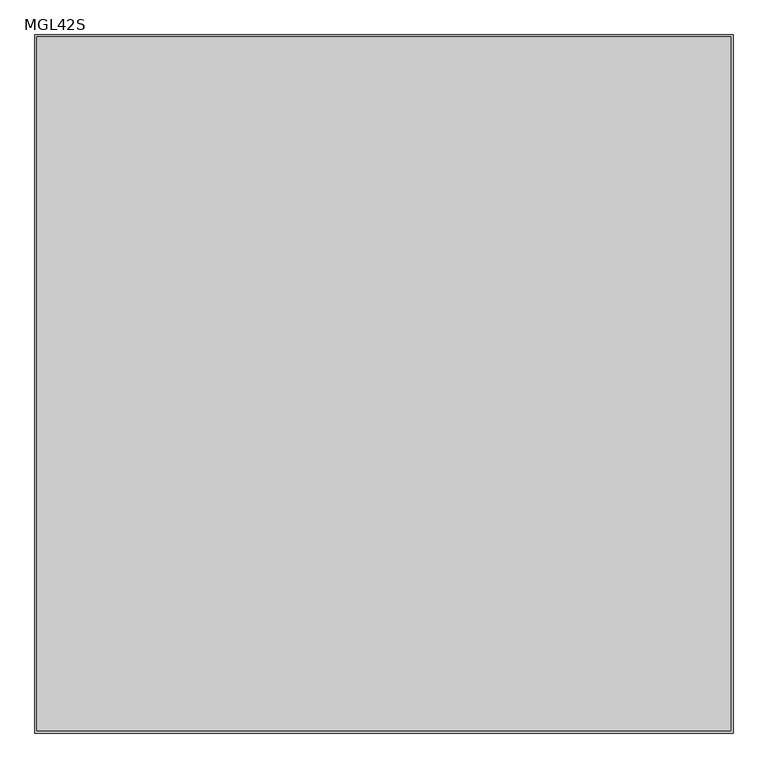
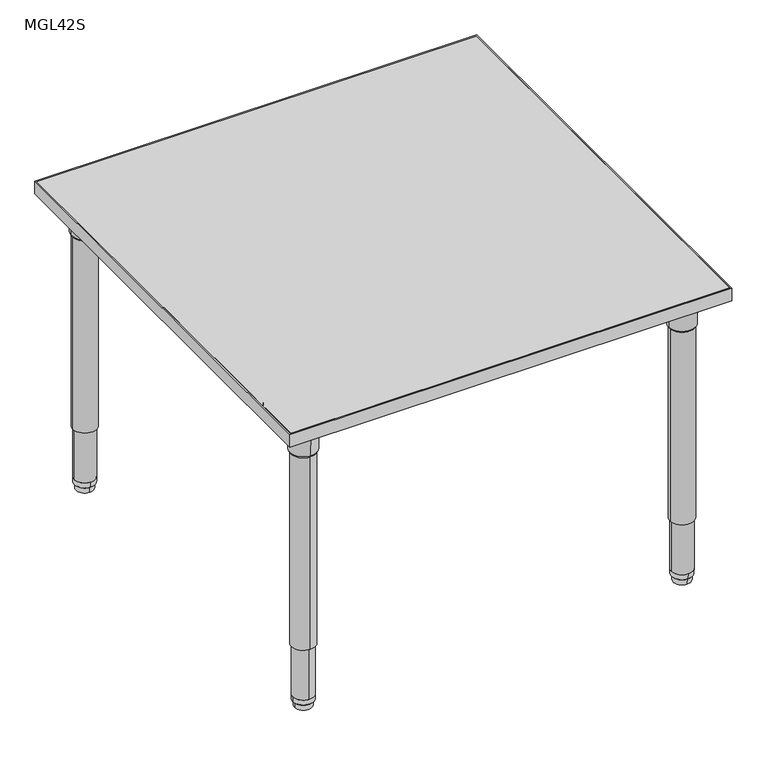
"""IFC4 building model written with IfcOpenShell, lengths in millimetres: furniture geometry, ERG-Mingle-Table-Square : MGL42S."""

from ifc_helpers import new_model, si_unit, point, frame, frame_2d, origin, place, context, project, spatial, polyline, circle_curve, trimmed, segment, composite_curve, outline, extrude, source, transform, mapped, element, save
from ifc_brep_helpers import plane_surface, cylinder_surface, revolved_surface, advanced_brep


def mgl42s_2c5b5d76(model_context):
    return source(origin(), model_context, "Body", "SolidModel", [
        advanced_brep(
        [(427.1646842, -457.2, 650.5933069), (487.2353158, -457.2, 650.5933069), (457.2, -457.2, 650.5933069), (425.056117, -457.2, 654.3580481), (489.343883, -457.2, 654.3580481), (424.1206351, -457.2, 707.7631458), (490.2793649, -457.2, 707.7631458), (420.671083, -457.2, 714.1198315), (493.728917, -457.2, 714.1198315), (420.671083, -457.2, 726.8198315), (493.728917, -457.2, 726.8198315), (457.2, -457.2, 726.8198315)],
        [
            (0, 1, circle_curve(frame((457.2, -457.2, 650.5933069), z_axis=(0.0, 0.0, -1.0), x_axis=(1.0, 0.0, 0.0)), 30.0353158)),
            (1, 2),
            (2, 0),
            (1, 0, circle_curve(frame((457.2, -457.2, 650.5933069), z_axis=(0.0, 0.0, -1.0), x_axis=(1.0, 0.0, 0.0)), 30.0353158)),
            (3, 4, circle_curve(frame((457.2, -457.2, 654.3580481), z_axis=(0.0, 0.0, -1.0), x_axis=(1.0, 0.0, 0.0)), 32.143883)),
            (4, 1),
            (0, 3),
            (4, 3, circle_curve(frame((457.2, -457.2, 654.3580481), z_axis=(0.0, 0.0, -1.0), x_axis=(1.0, 0.0, 0.0)), 32.143883)),
            (5, 6, circle_curve(frame((457.2, -457.2, 707.7631458), z_axis=(0.0, 0.0, -1.0), x_axis=(1.0, 0.0, 0.0)), 33.0793649)),
            (6, 4),
            (3, 5),
            (6, 5, circle_curve(frame((457.2, -457.2, 707.7631458), z_axis=(0.0, 0.0, -1.0), x_axis=(1.0, 0.0, 0.0)), 33.0793649)),
            (7, 8, circle_curve(frame((457.2, -457.2, 714.1198315), z_axis=(0.0, 0.0, -1.0), x_axis=(1.0, 0.0, 0.0)), 36.528917)),
            (8, 6),
            (5, 7),
            (8, 7, circle_curve(frame((457.2, -457.2, 714.1198315), z_axis=(0.0, 0.0, -1.0), x_axis=(1.0, 0.0, 0.0)), 36.528917)),
            (9, 10, circle_curve(frame((457.2, -457.2, 726.8198315), z_axis=(0.0, 0.0, -1.0), x_axis=(1.0, 0.0, 0.0)), 36.528917)),
            (10, 8),
            (7, 9),
            (10, 9, circle_curve(frame((457.2, -457.2, 726.8198315), z_axis=(0.0, 0.0, -1.0), x_axis=(1.0, 0.0, 0.0)), 36.528917)),
            (11, 10),
            (9, 11),
        ],
        [
            plane_surface(frame((457.2, -457.2, 650.5933069), z_axis=(0.0, 0.0, -1.0), x_axis=(1.0, 0.0, 0.0))),
            revolved_surface(polyline([(487.2353158, -457.2, 650.5933069), (489.343883, -457.2, 654.3580481)]), (457.2, -457.2, 726.8198315), (0.0, 0.0, 1.0)),
            revolved_surface(polyline([(489.343883, -457.2, 654.3580481), (490.2793649, -457.2, 707.7631458)]), (457.2, -457.2, 726.8198315), (0.0, 0.0, 1.0)),
            revolved_surface(polyline([(490.2793649, -457.2, 707.7631458), (493.728917, -457.2, 714.1198315)]), (457.2, -457.2, 726.8198315), (0.0, 0.0, 1.0)),
            cylinder_surface(frame((457.2, -457.2, 726.8198315), z_axis=(0.0, 0.0, 1.0), x_axis=(1.0, 0.0, 0.0)), 36.528917),
            plane_surface(frame((457.2, -457.2, 726.8198315), z_axis=(0.0, 0.0, 1.0), x_axis=(1.0, 0.0, 0.0))),
        ],
        [
            (0, [[1, 2, 3]]),
            (0, [[4, -3, -2]]),
            (1, [[5, 6, -1, 7]]),
            (1, [[8, -7, -4, -6]]),
            (2, [[9, 10, -5, 11]]),
            (2, [[12, -11, -8, -10]]),
            (3, [[13, 14, -9, 15]]),
            (3, [[16, -15, -12, -14]]),
            (4, [[17, 18, -13, 19]]),
            (4, [[20, -19, -16, -18]]),
            (5, [[21, -17, 22]]),
            (5, [[-22, -20, -21]]),
        ],
    ),
        extrude(outline(composite_curve([segment(polyline([(503.073768, -374.6223426), (503.073768, -488.3483754)]), True, "CONTINUOUS"), segment(trimmed(circle_curve(frame_2d((487.198768, -488.3483754)), 15.875), [point((503.073768, -488.3483754))], [point((487.198768, -504.2233754))], False, "CARTESIAN"), True, "CONTINUOUS"), segment(polyline([(487.198768, -504.2233754), (373.4864205, -504.2233754)]), True, "CONTINUOUS"), segment(trimmed(circle_curve(frame_2d((373.4864205, -491.5233754)), 12.7), [point((373.4864205, -504.2233754))], [point((360.8491923, -490.2622394))], False, "CARTESIAN"), True, "CONTINUOUS"), segment(trimmed(circle_curve(frame_2d((503.3486077, -504.4830117)), 143.2072406), [point((360.8491923, -490.2622394))], [point((489.1111525, -361.9852622))], False, "CARTESIAN"), True, "CONTINUOUS"), segment(trimmed(circle_curve(frame_2d((490.373768, -374.6223426)), 12.7), [point((489.1111525, -361.9852622))], [point((503.073768, -374.6223426))], False, "CARTESIAN"), True, "CONTINUOUS")], self_intersect=False)), frame((0.0, 0.0, 726.8198315), z_axis=(0.0, 0.0, 1.0), x_axis=(1.0, 0.0, 0.0)), (0.0, 0.0, 1.0), 3.4301685),
        extrude(outline(composite_curve([segment(trimmed(circle_curve(frame_2d((457.2, -457.2)), 28.575), [point((485.775, -457.2))], [point((428.625, -457.2))], False, "CARTESIAN"), True, "CONTINUOUS"), segment(trimmed(circle_curve(frame_2d((457.2, -457.2)), 28.575), [point((428.625, -457.2))], [point((485.775, -457.2))], False, "CARTESIAN"), True, "CONTINUOUS")], self_intersect=False)), frame((0.0, 0.0, 158.3876979), z_axis=(0.0, 0.0, 1.0), x_axis=(1.0, 0.0, 0.0)), (0.0, 0.0, 1.0), 495.4089866),
        extrude(outline(composite_curve([segment(trimmed(circle_curve(frame_2d((457.2, -457.2)), 25.4), [point((482.6, -457.2))], [point((431.8, -457.2))], False, "CARTESIAN"), True, "CONTINUOUS"), segment(trimmed(circle_curve(frame_2d((457.2, -457.2)), 25.4), [point((431.8, -457.2))], [point((482.6, -457.2))], False, "CARTESIAN"), True, "CONTINUOUS")], self_intersect=False)), frame((0.0, 0.0, 28.9580435), z_axis=(0.0, 0.0, 1.0), x_axis=(1.0, 0.0, 0.0)), (0.0, 0.0, 1.0), 176.7049119),
        advanced_brep(
        [(457.2, -431.9649896, 28.9580185), (457.2, -482.4350104, 28.9580185), (457.2, -457.2, 28.9580185), (457.2, -432.100761, 16.3032949), (457.2, -482.299239, 16.3032949), (457.2, -433.6160619, 14.7291007), (457.2, -480.7839381, 14.7291007), (457.2, -436.0591422, 14.7291007), (457.2, -478.3408578, 14.7291007), (457.2, -436.2521336, 0.0), (457.2, -478.1478664, 0.0), (457.2, -457.2, 0.0)],
        [
            (0, 1, circle_curve(frame((457.2, -457.2, 28.9580185), z_axis=(0.0, 0.0, 1.0), x_axis=(0.0, -1.0, 0.0)), 25.2350104)),
            (1, 2),
            (2, 0),
            (1, 0, circle_curve(frame((457.2, -457.2, 28.9580185), z_axis=(0.0, 0.0, 1.0), x_axis=(0.0, -1.0, 0.0)), 25.2350104)),
            (3, 4, circle_curve(frame((457.2, -457.2, 16.3032949), z_axis=(0.0, 0.0, 1.0), x_axis=(0.0, -1.0, 0.0)), 25.099239)),
            (4, 1),
            (0, 3),
            (4, 3, circle_curve(frame((457.2, -457.2, 16.3032949), z_axis=(0.0, 0.0, 1.0), x_axis=(0.0, -1.0, 0.0)), 25.099239)),
            (5, 6, circle_curve(frame((457.2, -457.2, 14.7291007), z_axis=(0.0, 0.0, 1.0), x_axis=(0.0, -1.0, 0.0)), 23.5839381)),
            (6, 4),
            (3, 5),
            (6, 5, circle_curve(frame((457.2, -457.2, 14.7291007), z_axis=(0.0, 0.0, 1.0), x_axis=(0.0, -1.0, 0.0)), 23.5839381)),
            (7, 8, circle_curve(frame((457.2, -457.2, 14.7291007), z_axis=(0.0, 0.0, 1.0), x_axis=(0.0, -1.0, 0.0)), 21.1408578)),
            (8, 6),
            (5, 7),
            (8, 7, circle_curve(frame((457.2, -457.2, 14.7291007), z_axis=(0.0, 0.0, 1.0), x_axis=(0.0, -1.0, 0.0)), 21.1408578)),
            (9, 10, circle_curve(frame((457.2, -457.2, 0.0), z_axis=(0.0, 0.0, 1.0), x_axis=(0.0, -1.0, 0.0)), 20.9478664)),
            (10, 8),
            (7, 9),
            (10, 9, circle_curve(frame((457.2, -457.2, 0.0), z_axis=(0.0, 0.0, 1.0), x_axis=(0.0, -1.0, 0.0)), 20.9478664)),
            (11, 10),
            (9, 11),
        ],
        [
            plane_surface(frame((457.2, -457.2, 28.9580185), z_axis=(0.0, 0.0, 1.0), x_axis=(0.0, -1.0, 0.0))),
            revolved_surface(polyline([(457.2, -482.4350104, 28.9580185), (457.2, -482.299239, 16.3032949)]), (457.2, -457.2, 0.0), (0.0, 0.0, -1.0)),
            revolved_surface(polyline([(457.2, -482.299239, 16.3032949), (457.2, -480.7839381, 14.7291007)]), (457.2, -457.2, 0.0), (0.0, 0.0, -1.0)),
            plane_surface(frame((457.2, -457.2, 14.7291007), z_axis=(0.0, 0.0, -1.0), x_axis=(0.0, -1.0, 0.0))),
            revolved_surface(polyline([(457.2, -478.3408578, 14.7291007), (457.2, -478.1478664, 0.0)]), (457.2, -457.2, 0.0), (0.0, 0.0, -1.0)),
            plane_surface(frame((457.2, -457.2, 0.0), z_axis=(0.0, 0.0, -1.0), x_axis=(0.0, -1.0, 0.0))),
        ],
        [
            (0, [[1, 2, 3]]),
            (0, [[4, -3, -2]]),
            (1, [[5, 6, -1, 7]]),
            (1, [[8, -7, -4, -6]]),
            (2, [[9, 10, -5, 11]]),
            (2, [[12, -11, -8, -10]]),
            (3, [[13, 14, -9, 15]]),
            (3, [[16, -15, -12, -14]]),
            (4, [[17, 18, -13, 19]]),
            (4, [[20, -19, -16, -18]]),
            (5, [[21, -17, 22]]),
            (5, [[-22, -20, -21]]),
        ],
    ),
        advanced_brep(
        [(-457.2, -427.1646842, 650.5933069), (-457.2, -487.2353158, 650.5933069), (-457.2, -457.2, 650.5933069), (-457.2, -425.056117, 654.3580481), (-457.2, -489.343883, 654.3580481), (-457.2, -424.1206351, 707.7631458), (-457.2, -490.2793649, 707.7631458), (-457.2, -420.671083, 714.1198315), (-457.2, -493.728917, 714.1198315), (-457.2, -420.671083, 726.8198315), (-457.2, -493.728917, 726.8198315), (-457.2, -457.2, 726.8198315)],
        [
            (0, 1, circle_curve(frame((-457.2, -457.2, 650.5933069), z_axis=(0.0, 0.0, -1.0), x_axis=(0.0, -1.0, 0.0)), 30.0353158)),
            (1, 2),
            (2, 0),
            (1, 0, circle_curve(frame((-457.2, -457.2, 650.5933069), z_axis=(0.0, 0.0, -1.0), x_axis=(0.0, -1.0, 0.0)), 30.0353158)),
            (3, 4, circle_curve(frame((-457.2, -457.2, 654.3580481), z_axis=(0.0, 0.0, -1.0), x_axis=(0.0, -1.0, 0.0)), 32.143883)),
            (4, 1),
            (0, 3),
            (4, 3, circle_curve(frame((-457.2, -457.2, 654.3580481), z_axis=(0.0, 0.0, -1.0), x_axis=(0.0, -1.0, 0.0)), 32.143883)),
            (5, 6, circle_curve(frame((-457.2, -457.2, 707.7631458), z_axis=(0.0, 0.0, -1.0), x_axis=(0.0, -1.0, 0.0)), 33.0793649)),
            (6, 4),
            (3, 5),
            (6, 5, circle_curve(frame((-457.2, -457.2, 707.7631458), z_axis=(0.0, 0.0, -1.0), x_axis=(0.0, -1.0, 0.0)), 33.0793649)),
            (7, 8, circle_curve(frame((-457.2, -457.2, 714.1198315), z_axis=(0.0, 0.0, -1.0), x_axis=(0.0, -1.0, 0.0)), 36.528917)),
            (8, 6),
            (5, 7),
            (8, 7, circle_curve(frame((-457.2, -457.2, 714.1198315), z_axis=(0.0, 0.0, -1.0), x_axis=(0.0, -1.0, 0.0)), 36.528917)),
            (9, 10, circle_curve(frame((-457.2, -457.2, 726.8198315), z_axis=(0.0, 0.0, -1.0), x_axis=(0.0, -1.0, 0.0)), 36.528917)),
            (10, 8),
            (7, 9),
            (10, 9, circle_curve(frame((-457.2, -457.2, 726.8198315), z_axis=(0.0, 0.0, -1.0), x_axis=(0.0, -1.0, 0.0)), 36.528917)),
            (11, 10),
            (9, 11),
        ],
        [
            plane_surface(frame((-457.2, -457.2, 650.5933069), z_axis=(0.0, 0.0, -1.0), x_axis=(0.0, -1.0, 0.0))),
            revolved_surface(polyline([(-457.2, -487.2353158, 650.5933069), (-457.2, -489.343883, 654.3580481)]), (-457.2, -457.2, 726.8198315), (0.0, 0.0, 1.0)),
            revolved_surface(polyline([(-457.2, -489.343883, 654.3580481), (-457.2, -490.2793649, 707.7631458)]), (-457.2, -457.2, 726.8198315), (0.0, 0.0, 1.0)),
            revolved_surface(polyline([(-457.2, -490.2793649, 707.7631458), (-457.2, -493.728917, 714.1198315)]), (-457.2, -457.2, 726.8198315), (0.0, 0.0, 1.0)),
            cylinder_surface(frame((-457.2, -457.2, 726.8198315), z_axis=(0.0, 0.0, 1.0), x_axis=(0.0, -1.0, 0.0)), 36.528917),
            plane_surface(frame((-457.2, -457.2, 726.8198315), z_axis=(0.0, 0.0, 1.0), x_axis=(0.0, -1.0, 0.0))),
        ],
        [
            (0, [[1, 2, 3]]),
            (0, [[4, -3, -2]]),
            (1, [[5, 6, -1, 7]]),
            (1, [[8, -7, -4, -6]]),
            (2, [[9, 10, -5, 11]]),
            (2, [[12, -11, -8, -10]]),
            (3, [[13, 14, -9, 15]]),
            (3, [[16, -15, -12, -14]]),
            (4, [[17, 18, -13, 19]]),
            (4, [[20, -19, -16, -18]]),
            (5, [[21, -17, 22]]),
            (5, [[-22, -20, -21]]),
        ],
    ),
        extrude(outline(composite_curve([segment(polyline([(-374.6223426, -503.073768), (-488.3483754, -503.073768)]), True, "CONTINUOUS"), segment(trimmed(circle_curve(frame_2d((-488.3483754, -487.198768)), 15.875), [point((-488.3483754, -503.073768))], [point((-504.2233754, -487.198768))], False, "CARTESIAN"), True, "CONTINUOUS"), segment(polyline([(-504.2233754, -487.198768), (-504.2233754, -373.4864205)]), True, "CONTINUOUS"), segment(trimmed(circle_curve(frame_2d((-491.5233754, -373.4864205)), 12.7), [point((-504.2233754, -373.4864205))], [point((-490.2622394, -360.8491923))], False, "CARTESIAN"), True, "CONTINUOUS"), segment(trimmed(circle_curve(frame_2d((-504.4830117, -503.3486077)), 143.2072406), [point((-490.2622394, -360.8491923))], [point((-361.9852622, -489.1111525))], False, "CARTESIAN"), True, "CONTINUOUS"), segment(trimmed(circle_curve(frame_2d((-374.6223426, -490.373768)), 12.7), [point((-361.9852622, -489.1111525))], [point((-374.6223426, -503.073768))], False, "CARTESIAN"), True, "CONTINUOUS")], self_intersect=False)), frame((0.0, 0.0, 726.8198315), z_axis=(0.0, 0.0, 1.0), x_axis=(1.0, 0.0, 0.0)), (0.0, 0.0, 1.0), 3.4301685),
        extrude(outline(composite_curve([segment(trimmed(circle_curve(frame_2d((-457.2, -457.2)), 28.575), [point((-457.2, -485.775))], [point((-457.2, -428.625))], False, "CARTESIAN"), True, "CONTINUOUS"), segment(trimmed(circle_curve(frame_2d((-457.2, -457.2)), 28.575), [point((-457.2, -428.625))], [point((-457.2, -485.775))], False, "CARTESIAN"), True, "CONTINUOUS")], self_intersect=False)), frame((0.0, 0.0, 158.3876979), z_axis=(0.0, 0.0, 1.0), x_axis=(1.0, 0.0, 0.0)), (0.0, 0.0, 1.0), 495.4089866),
        extrude(outline(composite_curve([segment(trimmed(circle_curve(frame_2d((-457.2, -457.2)), 25.4), [point((-457.2, -482.6))], [point((-457.2, -431.8))], False, "CARTESIAN"), True, "CONTINUOUS"), segment(trimmed(circle_curve(frame_2d((-457.2, -457.2)), 25.4), [point((-457.2, -431.8))], [point((-457.2, -482.6))], False, "CARTESIAN"), True, "CONTINUOUS")], self_intersect=False)), frame((0.0, 0.0, 28.9580435), z_axis=(0.0, 0.0, 1.0), x_axis=(1.0, 0.0, 0.0)), (0.0, 0.0, 1.0), 176.7049119),
        advanced_brep(
        [(-431.9649896, -457.2, 28.9580185), (-482.4350104, -457.2, 28.9580185), (-457.2, -457.2, 28.9580185), (-432.100761, -457.2, 16.3032949), (-482.299239, -457.2, 16.3032949), (-433.6160619, -457.2, 14.7291007), (-480.7839381, -457.2, 14.7291007), (-436.0591422, -457.2, 14.7291007), (-478.3408578, -457.2, 14.7291007), (-436.2521336, -457.2, 0.0), (-478.1478664, -457.2, 0.0), (-457.2, -457.2, 0.0)],
        [
            (0, 1, circle_curve(frame((-457.2, -457.2, 28.9580185), z_axis=(0.0, 0.0, 1.0), x_axis=(-1.0, 0.0, 0.0)), 25.2350104)),
            (1, 2),
            (2, 0),
            (1, 0, circle_curve(frame((-457.2, -457.2, 28.9580185), z_axis=(0.0, 0.0, 1.0), x_axis=(-1.0, 0.0, 0.0)), 25.2350104)),
            (3, 4, circle_curve(frame((-457.2, -457.2, 16.3032949), z_axis=(0.0, 0.0, 1.0), x_axis=(-1.0, 0.0, 0.0)), 25.099239)),
            (4, 1),
            (0, 3),
            (4, 3, circle_curve(frame((-457.2, -457.2, 16.3032949), z_axis=(0.0, 0.0, 1.0), x_axis=(-1.0, 0.0, 0.0)), 25.099239)),
            (5, 6, circle_curve(frame((-457.2, -457.2, 14.7291007), z_axis=(0.0, 0.0, 1.0), x_axis=(-1.0, 0.0, 0.0)), 23.5839381)),
            (6, 4),
            (3, 5),
            (6, 5, circle_curve(frame((-457.2, -457.2, 14.7291007), z_axis=(0.0, 0.0, 1.0), x_axis=(-1.0, 0.0, 0.0)), 23.5839381)),
            (7, 8, circle_curve(frame((-457.2, -457.2, 14.7291007), z_axis=(0.0, 0.0, 1.0), x_axis=(-1.0, 0.0, 0.0)), 21.1408578)),
            (8, 6),
            (5, 7),
            (8, 7, circle_curve(frame((-457.2, -457.2, 14.7291007), z_axis=(0.0, 0.0, 1.0), x_axis=(-1.0, 0.0, 0.0)), 21.1408578)),
            (9, 10, circle_curve(frame((-457.2, -457.2, 0.0), z_axis=(0.0, 0.0, 1.0), x_axis=(-1.0, 0.0, 0.0)), 20.9478664)),
            (10, 8),
            (7, 9),
            (10, 9, circle_curve(frame((-457.2, -457.2, 0.0), z_axis=(0.0, 0.0, 1.0), x_axis=(-1.0, 0.0, 0.0)), 20.9478664)),
            (11, 10),
            (9, 11),
        ],
        [
            plane_surface(frame((-457.2, -457.2, 28.9580185), z_axis=(0.0, 0.0, 1.0), x_axis=(-1.0, 0.0, 0.0))),
            revolved_surface(polyline([(-482.4350104, -457.2, 28.9580185), (-482.299239, -457.2, 16.3032949)]), (-457.2, -457.2, 0.0), (0.0, 0.0, -1.0)),
            revolved_surface(polyline([(-482.299239, -457.2, 16.3032949), (-480.7839381, -457.2, 14.7291007)]), (-457.2, -457.2, 0.0), (0.0, 0.0, -1.0)),
            plane_surface(frame((-457.2, -457.2, 14.7291007), z_axis=(0.0, 0.0, -1.0), x_axis=(-1.0, 0.0, 0.0))),
            revolved_surface(polyline([(-478.3408578, -457.2, 14.7291007), (-478.1478664, -457.2, 0.0)]), (-457.2, -457.2, 0.0), (0.0, 0.0, -1.0)),
            plane_surface(frame((-457.2, -457.2, 0.0), z_axis=(0.0, 0.0, -1.0), x_axis=(-1.0, 0.0, 0.0))),
        ],
        [
            (0, [[1, 2, 3]]),
            (0, [[4, -3, -2]]),
            (1, [[5, 6, -1, 7]]),
            (1, [[8, -7, -4, -6]]),
            (2, [[9, 10, -5, 11]]),
            (2, [[12, -11, -8, -10]]),
            (3, [[13, 14, -9, 15]]),
            (3, [[16, -15, -12, -14]]),
            (4, [[17, 18, -13, 19]]),
            (4, [[20, -19, -16, -18]]),
            (5, [[21, -17, 22]]),
            (5, [[-22, -20, -21]]),
        ],
    ),
        advanced_brep(
        [(457.2, 427.1646842, 650.5933069), (457.2, 487.2353158, 650.5933069), (457.2, 457.2, 650.5933069), (457.2, 425.056117, 654.3580481), (457.2, 489.343883, 654.3580481), (457.2, 424.1206351, 707.7631458), (457.2, 490.2793649, 707.7631458), (457.2, 420.671083, 714.1198315), (457.2, 493.728917, 714.1198315), (457.2, 420.671083, 726.8198315), (457.2, 493.728917, 726.8198315), (457.2, 457.2, 726.8198315)],
        [
            (0, 1, circle_curve(frame((457.2, 457.2, 650.5933069), z_axis=(0.0, 0.0, -1.0), x_axis=(0.0, 1.0, 0.0)), 30.0353158)),
            (1, 2),
            (2, 0),
            (1, 0, circle_curve(frame((457.2, 457.2, 650.5933069), z_axis=(0.0, 0.0, -1.0), x_axis=(0.0, 1.0, 0.0)), 30.0353158)),
            (3, 4, circle_curve(frame((457.2, 457.2, 654.3580481), z_axis=(0.0, 0.0, -1.0), x_axis=(0.0, 1.0, 0.0)), 32.143883)),
            (4, 1),
            (0, 3),
            (4, 3, circle_curve(frame((457.2, 457.2, 654.3580481), z_axis=(0.0, 0.0, -1.0), x_axis=(0.0, 1.0, 0.0)), 32.143883)),
            (5, 6, circle_curve(frame((457.2, 457.2, 707.7631458), z_axis=(0.0, 0.0, -1.0), x_axis=(0.0, 1.0, 0.0)), 33.0793649)),
            (6, 4),
            (3, 5),
            (6, 5, circle_curve(frame((457.2, 457.2, 707.7631458), z_axis=(0.0, 0.0, -1.0), x_axis=(0.0, 1.0, 0.0)), 33.0793649)),
            (7, 8, circle_curve(frame((457.2, 457.2, 714.1198315), z_axis=(0.0, 0.0, -1.0), x_axis=(0.0, 1.0, 0.0)), 36.528917)),
            (8, 6),
            (5, 7),
            (8, 7, circle_curve(frame((457.2, 457.2, 714.1198315), z_axis=(0.0, 0.0, -1.0), x_axis=(0.0, 1.0, 0.0)), 36.528917)),
            (9, 10, circle_curve(frame((457.2, 457.2, 726.8198315), z_axis=(0.0, 0.0, -1.0), x_axis=(0.0, 1.0, 0.0)), 36.528917)),
            (10, 8),
            (7, 9),
            (10, 9, circle_curve(frame((457.2, 457.2, 726.8198315), z_axis=(0.0, 0.0, -1.0), x_axis=(0.0, 1.0, 0.0)), 36.528917)),
            (11, 10),
            (9, 11),
        ],
        [
            plane_surface(frame((457.2, 457.2, 650.5933069), z_axis=(0.0, 0.0, -1.0), x_axis=(0.0, 1.0, 0.0))),
            revolved_surface(polyline([(457.2, 487.2353158, 650.5933069), (457.2, 489.343883, 654.3580481)]), (457.2, 457.2, 726.8198315), (0.0, 0.0, 1.0)),
            revolved_surface(polyline([(457.2, 489.343883, 654.3580481), (457.2, 490.2793649, 707.7631458)]), (457.2, 457.2, 726.8198315), (0.0, 0.0, 1.0)),
            revolved_surface(polyline([(457.2, 490.2793649, 707.7631458), (457.2, 493.728917, 714.1198315)]), (457.2, 457.2, 726.8198315), (0.0, 0.0, 1.0)),
            cylinder_surface(frame((457.2, 457.2, 726.8198315), z_axis=(0.0, 0.0, 1.0), x_axis=(0.0, 1.0, 0.0)), 36.528917),
            plane_surface(frame((457.2, 457.2, 726.8198315), z_axis=(0.0, 0.0, 1.0), x_axis=(0.0, 1.0, 0.0))),
        ],
        [
            (0, [[1, 2, 3]]),
            (0, [[4, -3, -2]]),
            (1, [[5, 6, -1, 7]]),
            (1, [[8, -7, -4, -6]]),
            (2, [[9, 10, -5, 11]]),
            (2, [[12, -11, -8, -10]]),
            (3, [[13, 14, -9, 15]]),
            (3, [[16, -15, -12, -14]]),
            (4, [[17, 18, -13, 19]]),
            (4, [[20, -19, -16, -18]]),
            (5, [[21, -17, 22]]),
            (5, [[-22, -20, -21]]),
        ],
    ),
        extrude(outline(composite_curve([segment(polyline([(374.6223426, 503.073768), (488.3483754, 503.073768)]), True, "CONTINUOUS"), segment(trimmed(circle_curve(frame_2d((488.3483754, 487.198768)), 15.875), [point((488.3483754, 503.073768))], [point((504.2233754, 487.198768))], False, "CARTESIAN"), True, "CONTINUOUS"), segment(polyline([(504.2233754, 487.198768), (504.2233754, 373.4864205)]), True, "CONTINUOUS"), segment(trimmed(circle_curve(frame_2d((491.5233754, 373.4864205)), 12.7), [point((504.2233754, 373.4864205))], [point((490.2622394, 360.8491923))], False, "CARTESIAN"), True, "CONTINUOUS"), segment(trimmed(circle_curve(frame_2d((504.4830117, 503.3486077)), 143.2072406), [point((490.2622394, 360.8491923))], [point((361.9852622, 489.1111525))], False, "CARTESIAN"), True, "CONTINUOUS"), segment(trimmed(circle_curve(frame_2d((374.6223426, 490.373768)), 12.7), [point((361.9852622, 489.1111525))], [point((374.6223426, 503.073768))], False, "CARTESIAN"), True, "CONTINUOUS")], self_intersect=False)), frame((0.0, 0.0, 726.8198315), z_axis=(0.0, 0.0, 1.0), x_axis=(1.0, 0.0, 0.0)), (0.0, 0.0, 1.0), 3.4301685),
        extrude(outline(composite_curve([segment(trimmed(circle_curve(frame_2d((457.2, 457.2)), 28.575), [point((457.2, 485.775))], [point((457.2, 428.625))], False, "CARTESIAN"), True, "CONTINUOUS"), segment(trimmed(circle_curve(frame_2d((457.2, 457.2)), 28.575), [point((457.2, 428.625))], [point((457.2, 485.775))], False, "CARTESIAN"), True, "CONTINUOUS")], self_intersect=False)), frame((0.0, 0.0, 158.3876979), z_axis=(0.0, 0.0, 1.0), x_axis=(1.0, 0.0, 0.0)), (0.0, 0.0, 1.0), 495.4089866),
        extrude(outline(composite_curve([segment(trimmed(circle_curve(frame_2d((457.2, 457.2)), 25.4), [point((457.2, 482.6))], [point((457.2, 431.8))], False, "CARTESIAN"), True, "CONTINUOUS"), segment(trimmed(circle_curve(frame_2d((457.2, 457.2)), 25.4), [point((457.2, 431.8))], [point((457.2, 482.6))], False, "CARTESIAN"), True, "CONTINUOUS")], self_intersect=False)), frame((0.0, 0.0, 28.9580435), z_axis=(0.0, 0.0, 1.0), x_axis=(1.0, 0.0, 0.0)), (0.0, 0.0, 1.0), 176.7049119),
        advanced_brep(
        [(431.9649896, 457.2, 28.9580185), (482.4350104, 457.2, 28.9580185), (457.2, 457.2, 28.9580185), (432.100761, 457.2, 16.3032949), (482.299239, 457.2, 16.3032949), (433.6160619, 457.2, 14.7291007), (480.7839381, 457.2, 14.7291007), (436.0591422, 457.2, 14.7291007), (478.3408578, 457.2, 14.7291007), (436.2521336, 457.2, 0.0), (478.1478664, 457.2, 0.0), (457.2, 457.2, 0.0)],
        [
            (0, 1, circle_curve(frame((457.2, 457.2, 28.9580185), z_axis=(0.0, 0.0, 1.0), x_axis=(1.0, 0.0, 0.0)), 25.2350104)),
            (1, 2),
            (2, 0),
            (1, 0, circle_curve(frame((457.2, 457.2, 28.9580185), z_axis=(0.0, 0.0, 1.0), x_axis=(1.0, 0.0, 0.0)), 25.2350104)),
            (3, 4, circle_curve(frame((457.2, 457.2, 16.3032949), z_axis=(0.0, 0.0, 1.0), x_axis=(1.0, 0.0, 0.0)), 25.099239)),
            (4, 1),
            (0, 3),
            (4, 3, circle_curve(frame((457.2, 457.2, 16.3032949), z_axis=(0.0, 0.0, 1.0), x_axis=(1.0, 0.0, 0.0)), 25.099239)),
            (5, 6, circle_curve(frame((457.2, 457.2, 14.7291007), z_axis=(0.0, 0.0, 1.0), x_axis=(1.0, 0.0, 0.0)), 23.5839381)),
            (6, 4),
            (3, 5),
            (6, 5, circle_curve(frame((457.2, 457.2, 14.7291007), z_axis=(0.0, 0.0, 1.0), x_axis=(1.0, 0.0, 0.0)), 23.5839381)),
            (7, 8, circle_curve(frame((457.2, 457.2, 14.7291007), z_axis=(0.0, 0.0, 1.0), x_axis=(1.0, 0.0, 0.0)), 21.1408578)),
            (8, 6),
            (5, 7),
            (8, 7, circle_curve(frame((457.2, 457.2, 14.7291007), z_axis=(0.0, 0.0, 1.0), x_axis=(1.0, 0.0, 0.0)), 21.1408578)),
            (9, 10, circle_curve(frame((457.2, 457.2, 0.0), z_axis=(0.0, 0.0, 1.0), x_axis=(1.0, 0.0, 0.0)), 20.9478664)),
            (10, 8),
            (7, 9),
            (10, 9, circle_curve(frame((457.2, 457.2, 0.0), z_axis=(0.0, 0.0, 1.0), x_axis=(1.0, 0.0, 0.0)), 20.9478664)),
            (11, 10),
            (9, 11),
        ],
        [
            plane_surface(frame((457.2, 457.2, 28.9580185), z_axis=(0.0, 0.0, 1.0), x_axis=(1.0, 0.0, 0.0))),
            revolved_surface(polyline([(482.4350104, 457.2, 28.9580185), (482.299239, 457.2, 16.3032949)]), (457.2, 457.2, 0.0), (0.0, 0.0, -1.0)),
            revolved_surface(polyline([(482.299239, 457.2, 16.3032949), (480.7839381, 457.2, 14.7291007)]), (457.2, 457.2, 0.0), (0.0, 0.0, -1.0)),
            plane_surface(frame((457.2, 457.2, 14.7291007), z_axis=(0.0, 0.0, -1.0), x_axis=(1.0, 0.0, 0.0))),
            revolved_surface(polyline([(478.3408578, 457.2, 14.7291007), (478.1478664, 457.2, 0.0)]), (457.2, 457.2, 0.0), (0.0, 0.0, -1.0)),
            plane_surface(frame((457.2, 457.2, 0.0), z_axis=(0.0, 0.0, -1.0), x_axis=(1.0, 0.0, 0.0))),
        ],
        [
            (0, [[1, 2, 3]]),
            (0, [[4, -3, -2]]),
            (1, [[5, 6, -1, 7]]),
            (1, [[8, -7, -4, -6]]),
            (2, [[9, 10, -5, 11]]),
            (2, [[12, -11, -8, -10]]),
            (3, [[13, 14, -9, 15]]),
            (3, [[16, -15, -12, -14]]),
            (4, [[17, 18, -13, 19]]),
            (4, [[20, -19, -16, -18]]),
            (5, [[21, -17, 22]]),
            (5, [[-22, -20, -21]]),
        ],
    ),
        advanced_brep(
        [(-427.1646842, 457.2, 650.5933069), (-487.2353158, 457.2, 650.5933069), (-457.2, 457.2, 650.5933069), (-425.056117, 457.2, 654.3580481), (-489.343883, 457.2, 654.3580481), (-424.1206351, 457.2, 707.7631458), (-490.2793649, 457.2, 707.7631458), (-420.671083, 457.2, 714.1198315), (-493.728917, 457.2, 714.1198315), (-420.671083, 457.2, 726.8198315), (-493.728917, 457.2, 726.8198315), (-457.2, 457.2, 726.8198315)],
        [
            (0, 1, circle_curve(frame((-457.2, 457.2, 650.5933069), z_axis=(0.0, 0.0, -1.0), x_axis=(-1.0, 0.0, 0.0)), 30.0353158)),
            (1, 2),
            (2, 0),
            (1, 0, circle_curve(frame((-457.2, 457.2, 650.5933069), z_axis=(0.0, 0.0, -1.0), x_axis=(-1.0, 0.0, 0.0)), 30.0353158)),
            (3, 4, circle_curve(frame((-457.2, 457.2, 654.3580481), z_axis=(0.0, 0.0, -1.0), x_axis=(-1.0, 0.0, 0.0)), 32.143883)),
            (4, 1),
            (0, 3),
            (4, 3, circle_curve(frame((-457.2, 457.2, 654.3580481), z_axis=(0.0, 0.0, -1.0), x_axis=(-1.0, 0.0, 0.0)), 32.143883)),
            (5, 6, circle_curve(frame((-457.2, 457.2, 707.7631458), z_axis=(0.0, 0.0, -1.0), x_axis=(-1.0, 0.0, 0.0)), 33.0793649)),
            (6, 4),
            (3, 5),
            (6, 5, circle_curve(frame((-457.2, 457.2, 707.7631458), z_axis=(0.0, 0.0, -1.0), x_axis=(-1.0, 0.0, 0.0)), 33.0793649)),
            (7, 8, circle_curve(frame((-457.2, 457.2, 714.1198315), z_axis=(0.0, 0.0, -1.0), x_axis=(-1.0, 0.0, 0.0)), 36.528917)),
            (8, 6),
            (5, 7),
            (8, 7, circle_curve(frame((-457.2, 457.2, 714.1198315), z_axis=(0.0, 0.0, -1.0), x_axis=(-1.0, 0.0, 0.0)), 36.528917)),
            (9, 10, circle_curve(frame((-457.2, 457.2, 726.8198315), z_axis=(0.0, 0.0, -1.0), x_axis=(-1.0, 0.0, 0.0)), 36.528917)),
            (10, 8),
            (7, 9),
            (10, 9, circle_curve(frame((-457.2, 457.2, 726.8198315), z_axis=(0.0, 0.0, -1.0), x_axis=(-1.0, 0.0, 0.0)), 36.528917)),
            (11, 10),
            (9, 11),
        ],
        [
            plane_surface(frame((-457.2, 457.2, 650.5933069), z_axis=(0.0, 0.0, -1.0), x_axis=(-1.0, 0.0, 0.0))),
            revolved_surface(polyline([(-487.2353158, 457.2, 650.5933069), (-489.343883, 457.2, 654.3580481)]), (-457.2, 457.2, 726.8198315), (0.0, 0.0, 1.0)),
            revolved_surface(polyline([(-489.343883, 457.2, 654.3580481), (-490.2793649, 457.2, 707.7631458)]), (-457.2, 457.2, 726.8198315), (0.0, 0.0, 1.0)),
            revolved_surface(polyline([(-490.2793649, 457.2, 707.7631458), (-493.728917, 457.2, 714.1198315)]), (-457.2, 457.2, 726.8198315), (0.0, 0.0, 1.0)),
            cylinder_surface(frame((-457.2, 457.2, 726.8198315), z_axis=(0.0, 0.0, 1.0), x_axis=(-1.0, 0.0, 0.0)), 36.528917),
            plane_surface(frame((-457.2, 457.2, 726.8198315), z_axis=(0.0, 0.0, 1.0), x_axis=(-1.0, 0.0, 0.0))),
        ],
        [
            (0, [[1, 2, 3]]),
            (0, [[4, -3, -2]]),
            (1, [[5, 6, -1, 7]]),
            (1, [[8, -7, -4, -6]]),
            (2, [[9, 10, -5, 11]]),
            (2, [[12, -11, -8, -10]]),
            (3, [[13, 14, -9, 15]]),
            (3, [[16, -15, -12, -14]]),
            (4, [[17, 18, -13, 19]]),
            (4, [[20, -19, -16, -18]]),
            (5, [[21, -17, 22]]),
            (5, [[-22, -20, -21]]),
        ],
    ),
        extrude(outline(composite_curve([segment(polyline([(-503.073768, 374.6223426), (-503.073768, 488.3483754)]), True, "CONTINUOUS"), segment(trimmed(circle_curve(frame_2d((-487.198768, 488.3483754)), 15.875), [point((-503.073768, 488.3483754))], [point((-487.198768, 504.2233754))], False, "CARTESIAN"), True, "CONTINUOUS"), segment(polyline([(-487.198768, 504.2233754), (-373.4864205, 504.2233754)]), True, "CONTINUOUS"), segment(trimmed(circle_curve(frame_2d((-373.4864205, 491.5233754)), 12.7), [point((-373.4864205, 504.2233754))], [point((-360.8491923, 490.2622394))], False, "CARTESIAN"), True, "CONTINUOUS"), segment(trimmed(circle_curve(frame_2d((-503.3486077, 504.4830117)), 143.2072406), [point((-360.8491923, 490.2622394))], [point((-489.1111525, 361.9852622))], False, "CARTESIAN"), True, "CONTINUOUS"), segment(trimmed(circle_curve(frame_2d((-490.373768, 374.6223426)), 12.7), [point((-489.1111525, 361.9852622))], [point((-503.073768, 374.6223426))], False, "CARTESIAN"), True, "CONTINUOUS")], self_intersect=False)), frame((0.0, 0.0, 726.8198315), z_axis=(0.0, 0.0, 1.0), x_axis=(1.0, 0.0, 0.0)), (0.0, 0.0, 1.0), 3.4301685),
        extrude(outline(composite_curve([segment(trimmed(circle_curve(frame_2d((-457.2, 457.2)), 28.575), [point((-485.775, 457.2))], [point((-428.625, 457.2))], False, "CARTESIAN"), True, "CONTINUOUS"), segment(trimmed(circle_curve(frame_2d((-457.2, 457.2)), 28.575), [point((-428.625, 457.2))], [point((-485.775, 457.2))], False, "CARTESIAN"), True, "CONTINUOUS")], self_intersect=False)), frame((0.0, 0.0, 158.3876979), z_axis=(0.0, 0.0, 1.0), x_axis=(1.0, 0.0, 0.0)), (0.0, 0.0, 1.0), 495.4089866),
        extrude(outline(composite_curve([segment(trimmed(circle_curve(frame_2d((-457.2, 457.2)), 25.4), [point((-482.6, 457.2))], [point((-431.8, 457.2))], False, "CARTESIAN"), True, "CONTINUOUS"), segment(trimmed(circle_curve(frame_2d((-457.2, 457.2)), 25.4), [point((-431.8, 457.2))], [point((-482.6, 457.2))], False, "CARTESIAN"), True, "CONTINUOUS")], self_intersect=False)), frame((0.0, 0.0, 28.9580435), z_axis=(0.0, 0.0, 1.0), x_axis=(1.0, 0.0, 0.0)), (0.0, 0.0, 1.0), 176.7049119),
        advanced_brep(
        [(-457.2, 431.9649896, 28.9580185), (-457.2, 482.4350104, 28.9580185), (-457.2, 457.2, 28.9580185), (-457.2, 432.100761, 16.3032949), (-457.2, 482.299239, 16.3032949), (-457.2, 433.6160619, 14.7291007), (-457.2, 480.7839381, 14.7291007), (-457.2, 436.0591422, 14.7291007), (-457.2, 478.3408578, 14.7291007), (-457.2, 436.2521336, 0.0), (-457.2, 478.1478664, 0.0), (-457.2, 457.2, 0.0)],
        [
            (0, 1, circle_curve(frame((-457.2, 457.2, 28.9580185), z_axis=(0.0, 0.0, 1.0), x_axis=(0.0, 1.0, 0.0)), 25.2350104)),
            (1, 2),
            (2, 0),
            (1, 0, circle_curve(frame((-457.2, 457.2, 28.9580185), z_axis=(0.0, 0.0, 1.0), x_axis=(0.0, 1.0, 0.0)), 25.2350104)),
            (3, 4, circle_curve(frame((-457.2, 457.2, 16.3032949), z_axis=(0.0, 0.0, 1.0), x_axis=(0.0, 1.0, 0.0)), 25.099239)),
            (4, 1),
            (0, 3),
            (4, 3, circle_curve(frame((-457.2, 457.2, 16.3032949), z_axis=(0.0, 0.0, 1.0), x_axis=(0.0, 1.0, 0.0)), 25.099239)),
            (5, 6, circle_curve(frame((-457.2, 457.2, 14.7291007), z_axis=(0.0, 0.0, 1.0), x_axis=(0.0, 1.0, 0.0)), 23.5839381)),
            (6, 4),
            (3, 5),
            (6, 5, circle_curve(frame((-457.2, 457.2, 14.7291007), z_axis=(0.0, 0.0, 1.0), x_axis=(0.0, 1.0, 0.0)), 23.5839381)),
            (7, 8, circle_curve(frame((-457.2, 457.2, 14.7291007), z_axis=(0.0, 0.0, 1.0), x_axis=(0.0, 1.0, 0.0)), 21.1408578)),
            (8, 6),
            (5, 7),
            (8, 7, circle_curve(frame((-457.2, 457.2, 14.7291007), z_axis=(0.0, 0.0, 1.0), x_axis=(0.0, 1.0, 0.0)), 21.1408578)),
            (9, 10, circle_curve(frame((-457.2, 457.2, 0.0), z_axis=(0.0, 0.0, 1.0), x_axis=(0.0, 1.0, 0.0)), 20.9478664)),
            (10, 8),
            (7, 9),
            (10, 9, circle_curve(frame((-457.2, 457.2, 0.0), z_axis=(0.0, 0.0, 1.0), x_axis=(0.0, 1.0, 0.0)), 20.9478664)),
            (11, 10),
            (9, 11),
        ],
        [
            plane_surface(frame((-457.2, 457.2, 28.9580185), z_axis=(0.0, 0.0, 1.0), x_axis=(0.0, 1.0, 0.0))),
            revolved_surface(polyline([(-457.2, 482.4350104, 28.9580185), (-457.2, 482.299239, 16.3032949)]), (-457.2, 457.2, 0.0), (0.0, 0.0, -1.0)),
            revolved_surface(polyline([(-457.2, 482.299239, 16.3032949), (-457.2, 480.7839381, 14.7291007)]), (-457.2, 457.2, 0.0), (0.0, 0.0, -1.0)),
            plane_surface(frame((-457.2, 457.2, 14.7291007), z_axis=(0.0, 0.0, -1.0), x_axis=(0.0, 1.0, 0.0))),
            revolved_surface(polyline([(-457.2, 478.3408578, 14.7291007), (-457.2, 478.1478664, 0.0)]), (-457.2, 457.2, 0.0), (0.0, 0.0, -1.0)),
            plane_surface(frame((-457.2, 457.2, 0.0), z_axis=(0.0, 0.0, -1.0), x_axis=(0.0, 1.0, 0.0))),
        ],
        [
            (0, [[1, 2, 3]]),
            (0, [[4, -3, -2]]),
            (1, [[5, 6, -1, 7]]),
            (1, [[8, -7, -4, -6]]),
            (2, [[9, 10, -5, 11]]),
            (2, [[12, -11, -8, -10]]),
            (3, [[13, 14, -9, 15]]),
            (3, [[16, -15, -12, -14]]),
            (4, [[17, 18, -13, 19]]),
            (4, [[20, -19, -16, -18]]),
            (5, [[21, -17, 22]]),
            (5, [[-22, -20, -21]]),
        ],
    ),
        extrude(outline(polyline([(-530.225, 530.225), (530.225, 530.225), (530.225, -530.225), (-530.225, -530.225), (-530.225, 530.225)])), frame((0.0, 0.0, 730.25), z_axis=(0.0, 0.0, 1.0), x_axis=(1.0, 0.0, 0.0)), (0.0, 0.0, 1.0), 31.75),
        extrude(outline(polyline([(533.4, -533.4), (-533.4, -533.4), (-533.4, 533.4), (533.4, 533.4), (533.4, -533.4)]), holes=[polyline([(530.225, 530.225), (-530.225, 530.225), (-530.225, -530.225), (530.225, -530.225), (530.225, 530.225)])]), frame((0.0, 0.0, 730.25), z_axis=(0.0, 0.0, 1.0), x_axis=(1.0, 0.0, 0.0)), (0.0, 0.0, 1.0), 31.75),
    ])


if __name__ == "__main__":
    model = new_model("IFC4")
    model_context = context("Model", 3, world=origin())
    ifc_project = project(units=[si_unit("LENGTHUNIT", "METRE", prefix="MILLI")], contexts=[model_context])
    site = spatial("IfcSite", under=ifc_project)
    building = spatial("IfcBuilding", under=site)
    placement = place(None, origin())
    mgl42s_shape = mgl42s_2c5b5d76(model_context)
    element("IfcFurniture", 1, ObjectType="ERG-Mingle-Table-Square : MGL42S", at=placement, inside=building, context=model_context, shape_type="MappedRepresentation", body=[
        mapped(mgl42s_shape, transform((0.0, 0.0, 0.0), x_axis=(1.0, 0.0, 0.0), y_axis=(0.0, 1.0, 0.0), z_axis=(0.0, 0.0, 1.0))),
    ])
    save(model, "model.ifc")
